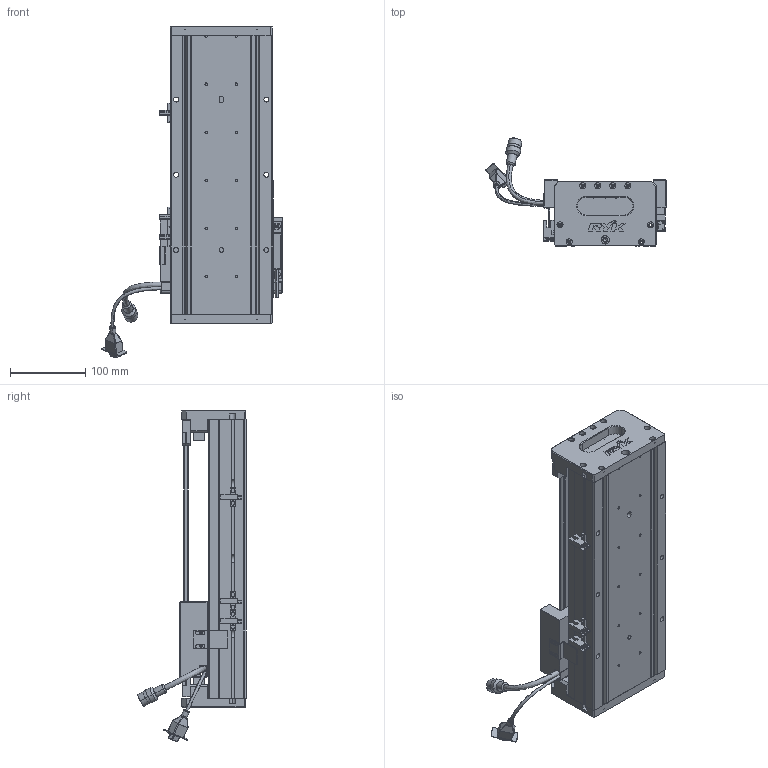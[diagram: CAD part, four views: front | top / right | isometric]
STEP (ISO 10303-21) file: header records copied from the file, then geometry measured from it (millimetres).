
FILE_DESCRIPTION (( 'STEP AP203' ), '1' );
FILE_NAME ('Z1-RY140D-1-L500-B-K.SLDASM_0200.step', '2021-05-17T07:30:16', ( '盈信电脑' ), ( '东莞市道滘镇水果街19号' ), 'SwSTEP 2.0', 'SolidWorks 2016', '' );
FILE_SCHEMA (( 'CONFIG_CONTROL_DESIGN' ));
Length unit declared in the file: millimetre
Products named in the file (36): SEAL-Part-1; SCREW-M1.6; 榋妏寠巭燃_暯_M2_2; HOLDER0; 080黍杅芛假蚾釱21遴; LABEL-Part-1; HARNESS-Part-2; HARNESS; Z-RY140感应器672光电感应片; Z1-RY140D-1-L500-B-K.SLDASM_0200; 140-Z-臏賑輸盄裔(21遴); COVER-Part-1; Z-140詩湍傷裔啣; Z-RY140詩湍狟揤裔; SCREW-M1.6-3; Z1-RY140-L500詩湍100mm遵_0200; SCALE-Part-1; SCALE-Part-2; COVER; SCREW-M1.7-1; PSLH080_PSLF2; Z1-RY140圉猾敕臏賑輸(21遴); SEAL; SCREW-M1.6-1; 覜茼ん672; Z-RY140詩湍奻揤裔; Z1-RY140-L500直线电机模组底座_0200; 140雄赽晤鎢ん堤盄; SCREW-M1.6-2; SCREW-M1.7; LABEL; SHIELDPLATE; HARNESS-Part-1; PBU_SHEET; SCALE; 140蚥薯蝶輸
Assembly tree (41 placements, depth 4):
  Z1-RY140D-1-L500-B-K.SLDASM_0200
    Z1-RY140-L500直线电机模组底座_0200
    Z-RY140感应器672光电感应片
    Z1-RY140圉猾敕臏賑輸(21遴)
    覜茼ん672  x3
    Z1-RY140-L500詩湍100mm遵_0200
    PSLH080_PSLF2
      SCALE
        SCALE-Part-1
        SCALE-Part-2
      HARNESS
        HARNESS-Part-1
        HARNESS-Part-2
      LABEL
        LABEL-Part-1
      COVER
        COVER-Part-1
      SEAL
        SEAL-Part-1
      榋妏寠巭燃_暯_M2_2
      SHIELDPLATE
      SCREW-M1.7
      SCREW-M1.7-1
      PBU_SHEET
      SCREW-M1.6
      SCREW-M1.6-1
      SCREW-M1.6-2
      SCREW-M1.6-3
      HOLDER0
    080黍杅芛假蚾釱21遴
    140-Z-臏賑輸盄裔(21遴)
    Z-140詩湍傷裔啣  x2
    Z-RY140詩湍狟揤裔  x2
    Z-RY140詩湍奻揤裔  x2
    140蚥薯蝶輸  x2
    140雄赽晤鎢ん堤盄
Bounding box: 239.84 x 143.88 x 440.88 mm (x, y, z)
Volume: 1851179.1 mm3; surface area: 502944.5 mm2
Topology: 36 solids, 36 shells, 2380 faces, 6138 edges, 3889 vertices
Faces by surface type: plane 1038, cylinder 994, cone 226, torus 69, bspline 53
Entity records: 65430 total; most frequent: CARTESIAN_POINT 15015, DIRECTION 9870, ORIENTED_EDGE 9516, EDGE_CURVE 4758, AXIS2_PLACEMENT_3D 3576, VERTEX_POINT 3057, LINE 2718, VECTOR 2718
